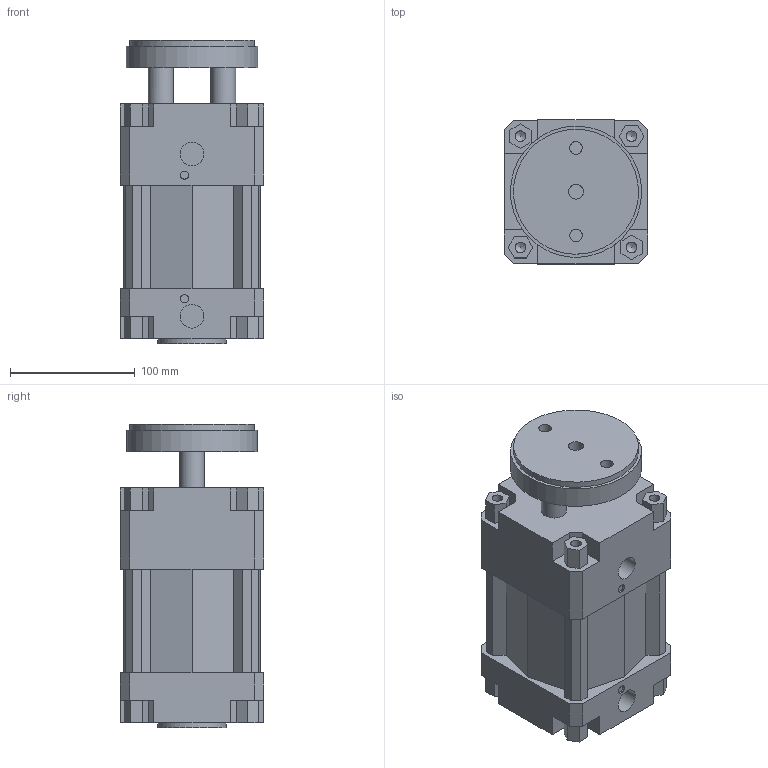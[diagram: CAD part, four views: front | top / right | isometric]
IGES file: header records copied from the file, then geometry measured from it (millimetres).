
Global section: file name: 134#_100_0025_01; native system: Autodesk Inventor 2014; preprocessor: unknown; author: A. Manieri; date: 20161006.165244; units: millimetre
Bounding box: 115 x 115 x 243 mm (x, y, z)
Volume: 2182806.7 mm3; surface area: 254106.5 mm2
Topology: 2 solids, 2 shells, 180 faces, 491 edges, 335 vertices
Faces by surface type: bspline 180
